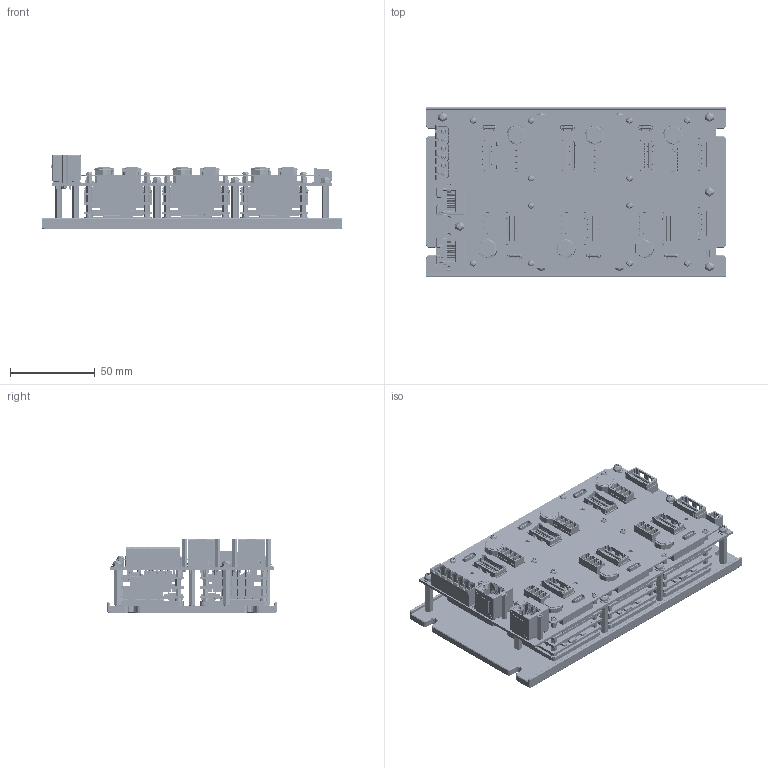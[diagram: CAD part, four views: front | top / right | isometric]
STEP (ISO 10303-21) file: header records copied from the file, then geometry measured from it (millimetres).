
FILE_DESCRIPTION((''),'2;1');
FILE_NAME('ASM0003_ASM','2025-05-29T14:42:17',('Administrator'),(''),'CREO PARAMETRIC BY PTC INC, 2023073','CREO PARAMETRIC BY PTC INC, 2023073','');
FILE_SCHEMA(('CONFIG_CONTROL_DESIGN'));
Products named in the file (1): ASM0003_ASM
Bounding box: 177 x 100 x 43.5 mm (x, y, z)
Topology: 1 solids, 1088 shells, 43657 faces, 115157 edges, 75827 vertices
Faces by surface type: plane 36186, cylinder 6447, cone 576, bspline 234, sphere 110, torus 104
Entity records: 1355568 total; most frequent: CARTESIAN_POINT 273415, ORIENTED_EDGE 227469, DIRECTION 211183, EDGE_CURVE 115000, VECTOR 94195, LINE 94195, VERTEX_POINT 75810, AXIS2_PLACEMENT_3D 58494
